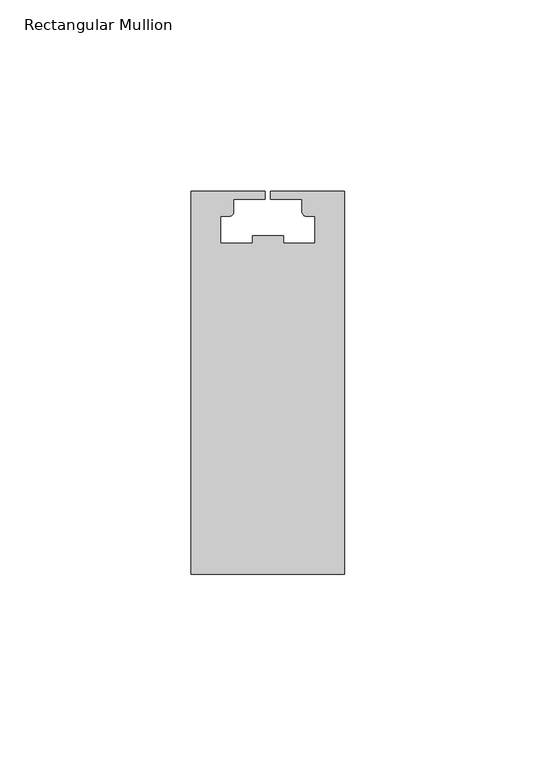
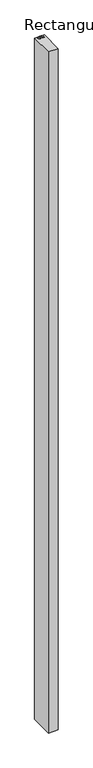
"""IFC4 building model written with IfcOpenShell, lengths in millimetres: member geometry, Rectangular Mullion : NLRS_21_CWM_drager SD.100 - rechts_Storax."""

from ifc_helpers import new_model, si_unit, point, frame, frame_2d, origin, place, context, project, spatial, polyline, circle_curve, trimmed, segment, composite_curve, outline, extrude, source, transform, mapped, element, save


def rectangular_mullion_8f153c19(model_context):
    return source(origin(), model_context, "Body", "SweptSolid", [
        extrude(outline(composite_curve([segment(polyline([(-50.0, -1.0), (-50.0, -101.0), (-90.0, -101.0), (-90.0, -1.0), (-70.7528633, -1.0), (-70.7528633, -3.0), (-78.9220615, -3.0), (-78.9220615, -6.2788187)]), True, "CONTINUOUS"), segment(trimmed(circle_curve(frame_2d((-80.1231703, -6.2788187)), 1.2011087), [point((-78.9220615, -6.2788187))], [point((-80.1231703, -7.4799274))], False, "CARTESIAN"), True, "CONTINUOUS"), segment(polyline([(-80.1231703, -7.4799274), (-82.3724438, -7.4799274), (-82.3724438, -14.5683484), (-74.0479621, -14.5683484), (-74.0479621, -12.5683484), (-65.9520379, -12.5683484), (-65.9520379, -14.5683484), (-57.6275562, -14.5683484), (-57.6275562, -7.4799274), (-59.8768297, -7.4799274)]), True, "CONTINUOUS"), segment(trimmed(circle_curve(frame_2d((-59.8768297, -6.2788187)), 1.2011087), [point((-59.8768297, -7.4799274))], [point((-61.0779385, -6.2788187))], False, "CARTESIAN"), True, "CONTINUOUS"), segment(polyline([(-61.0779385, -6.2788187), (-61.0779385, -3.0), (-69.2471367, -3.0), (-69.2471367, -1.0), (-50.0, -1.0)]), True, "CONTINUOUS")], self_intersect=False)), frame((0.0, 0.0, -3000.0), z_axis=(0.0, 0.0, 1.0), x_axis=(1.0, 0.0, 0.0)), (0.0, 0.0, 1.0), 3000.0),
    ])


if __name__ == "__main__":
    model = new_model("IFC4")
    model_context = context("Model", 3, world=origin())
    ifc_project = project(units=[si_unit("LENGTHUNIT", "METRE", prefix="MILLI")], contexts=[model_context])
    site = spatial("IfcSite", under=ifc_project)
    building = spatial("IfcBuilding", under=site)
    placement = place(None, origin())
    rectangular_mullion_shape = rectangular_mullion_8f153c19(model_context)
    element("IfcMember", 1, ObjectType="Rectangular Mullion : NLRS_21_CWM_drager SD.100 - rechts_Storax", at=placement, inside=building, context=model_context, shape_type="MappedRepresentation", body=[
        mapped(rectangular_mullion_shape, transform((0.0, 0.0, 0.0), x_axis=(1.0, 0.0, 0.0), y_axis=(0.0, 1.0, 0.0), z_axis=(0.0, 0.0, 1.0))),
    ])
    save(model, "model.ifc")
